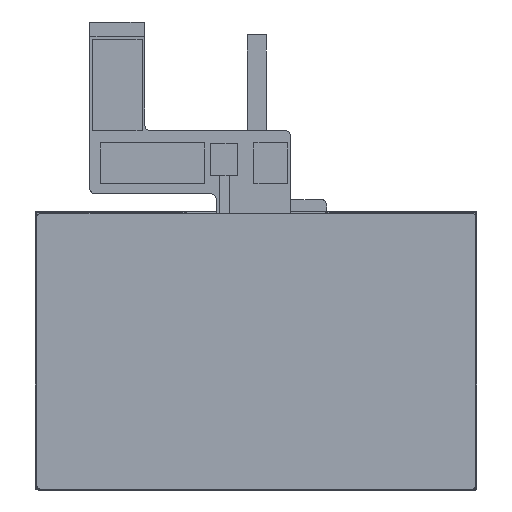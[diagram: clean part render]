
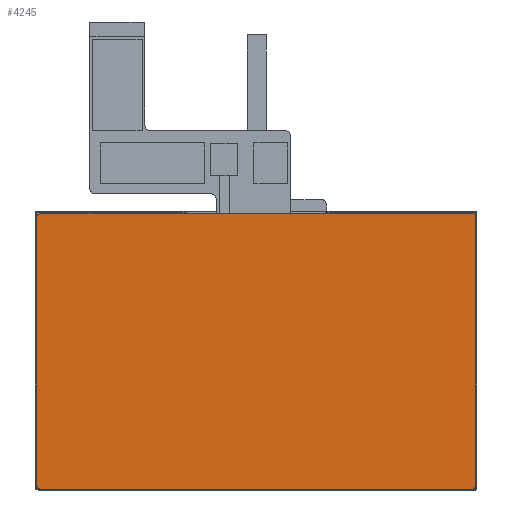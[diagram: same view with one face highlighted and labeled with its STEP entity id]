
A CAD part, front view. The second image highlights one B-rep face of the part: STEP entity #4245.
In plain terms, the highlighted planar face has unit normal (0, -1, 0).
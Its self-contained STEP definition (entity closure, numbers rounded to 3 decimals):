
#53 = DIRECTION ( 'NONE',  ( 0., 1., 0. ) ) ;
#87 = VERTEX_POINT ( 'NONE', #2944 ) ;
#133 = ORIENTED_EDGE ( 'NONE', *, *, #8414, .F. ) ;
#269 = CIRCLE ( 'NONE', #8442, 2. ) ;
#316 = EDGE_CURVE ( 'NONE', #9313, #1096, #8787, .T. ) ;
#914 = DIRECTION ( 'NONE',  ( 0., 1., 0. ) ) ;
#1096 = VERTEX_POINT ( 'NONE', #9269 ) ;
#1591 = CIRCLE ( 'NONE', #3984, 2. ) ;
#1613 = DIRECTION ( 'NONE',  ( 0., 1., 0. ) ) ;
#1659 = AXIS2_PLACEMENT_3D ( 'NONE', #4629, #3024, #5297 ) ;
#1681 = DIRECTION ( 'NONE',  ( 0., 1., 0. ) ) ;
#1828 = EDGE_CURVE ( 'NONE', #5724, #8497, #269, .T. ) ;
#2068 = FACE_OUTER_BOUND ( 'NONE', #2258, .T. ) ;
#2258 = EDGE_LOOP ( 'NONE', ( #133, #3443, #6563, #6623, #7317, #6609, #5462, #7167 ) ) ;
#2562 = CARTESIAN_POINT ( 'NONE',  ( -52.522, 100.186, 60.567 ) ) ;
#2720 = CARTESIAN_POINT ( 'NONE',  ( 111.778, 100.186, 121.367 ) ) ;
#2780 = CIRCLE ( 'NONE', #1659, 2. ) ;
#2944 = CARTESIAN_POINT ( 'NONE',  ( 109.778, 100.186, 58.567 ) ) ;
#3001 = AXIS2_PLACEMENT_3D ( 'NONE', #4674, #914, #7493 ) ;
#3022 = VECTOR ( 'NONE', #8131, 1000. ) ;
#3024 = DIRECTION ( 'NONE',  ( 0., 1., 0. ) ) ;
#3079 = CARTESIAN_POINT ( 'NONE',  ( -50.522, 100.186, 60.567 ) ) ;
#3110 = DIRECTION ( 'NONE',  ( 0., 0., 1. ) ) ;
#3443 = ORIENTED_EDGE ( 'NONE', *, *, #1828, .F. ) ;
#3479 = EDGE_CURVE ( 'NONE', #6558, #87, #2780, .T. ) ;
#3482 = CARTESIAN_POINT ( 'NONE',  ( -50.522, 100.186, 161.867 ) ) ;
#3727 = CARTESIAN_POINT ( 'NONE',  ( 29.628, 100.186, 58.567 ) ) ;
#3774 = EDGE_CURVE ( 'NONE', #87, #5724, #9692, .T. ) ;
#3984 = AXIS2_PLACEMENT_3D ( 'NONE', #4471, #53, #7626 ) ;
#4245 = ADVANCED_FACE ( 'NONE', ( #2068 ), #8527, .F. ) ;
#4278 = CIRCLE ( 'NONE', #3001, 2. ) ;
#4471 = CARTESIAN_POINT ( 'NONE',  ( -50.522, 100.186, 159.867 ) ) ;
#4629 = CARTESIAN_POINT ( 'NONE',  ( 109.778, 100.186, 60.567 ) ) ;
#4674 = CARTESIAN_POINT ( 'NONE',  ( 109.778, 100.186, 159.867 ) ) ;
#4866 = CARTESIAN_POINT ( 'NONE',  ( -52.522, 100.186, 121.367 ) ) ;
#5028 = VECTOR ( 'NONE', #8949, 1000. ) ;
#5086 = CARTESIAN_POINT ( 'NONE',  ( 29.628, 100.186, 161.867 ) ) ;
#5238 = VECTOR ( 'NONE', #7927, 1000. ) ;
#5297 = DIRECTION ( 'NONE',  ( 0., 0., 1. ) ) ;
#5445 = EDGE_CURVE ( 'NONE', #1096, #7754, #4278, .T. ) ;
#5462 = ORIENTED_EDGE ( 'NONE', *, *, #316, .F. ) ;
#5724 = VERTEX_POINT ( 'NONE', #9776 ) ;
#6466 = LINE ( 'NONE', #2720, #3022 ) ;
#6514 = DIRECTION ( 'NONE',  ( 0., 0., 1. ) ) ;
#6558 = VERTEX_POINT ( 'NONE', #8552 ) ;
#6563 = ORIENTED_EDGE ( 'NONE', *, *, #3774, .F. ) ;
#6605 = VERTEX_POINT ( 'NONE', #8089 ) ;
#6609 = ORIENTED_EDGE ( 'NONE', *, *, #5445, .F. ) ;
#6623 = ORIENTED_EDGE ( 'NONE', *, *, #3479, .F. ) ;
#7041 = EDGE_CURVE ( 'NONE', #7754, #6558, #6466, .T. ) ;
#7118 = LINE ( 'NONE', #4866, #7347 ) ;
#7145 = EDGE_CURVE ( 'NONE', #6605, #9313, #1591, .T. ) ;
#7167 = ORIENTED_EDGE ( 'NONE', *, *, #7145, .F. ) ;
#7264 = AXIS2_PLACEMENT_3D ( 'NONE', #8424, #1613, #3110 ) ;
#7317 = ORIENTED_EDGE ( 'NONE', *, *, #7041, .F. ) ;
#7347 = VECTOR ( 'NONE', #6514, 1000. ) ;
#7357 = CARTESIAN_POINT ( 'NONE',  ( 111.778, 100.186, 159.867 ) ) ;
#7493 = DIRECTION ( 'NONE',  ( 0., 0., 1. ) ) ;
#7626 = DIRECTION ( 'NONE',  ( 0., 0., 1. ) ) ;
#7754 = VERTEX_POINT ( 'NONE', #7357 ) ;
#7927 = DIRECTION ( 'NONE',  ( 1., 0., 0. ) ) ;
#8089 = CARTESIAN_POINT ( 'NONE',  ( -52.522, 100.186, 159.867 ) ) ;
#8131 = DIRECTION ( 'NONE',  ( 0., 0., -1. ) ) ;
#8414 = EDGE_CURVE ( 'NONE', #8497, #6605, #7118, .T. ) ;
#8424 = CARTESIAN_POINT ( 'NONE',  ( 29.628, 100.186, 121.367 ) ) ;
#8442 = AXIS2_PLACEMENT_3D ( 'NONE', #3079, #1681, #9192 ) ;
#8497 = VERTEX_POINT ( 'NONE', #2562 ) ;
#8527 = PLANE ( 'NONE',  #7264 ) ;
#8552 = CARTESIAN_POINT ( 'NONE',  ( 111.778, 100.186, 60.567 ) ) ;
#8787 = LINE ( 'NONE', #5086, #5238 ) ;
#8949 = DIRECTION ( 'NONE',  ( -1., 0., 0. ) ) ;
#9192 = DIRECTION ( 'NONE',  ( 0., 0., 1. ) ) ;
#9269 = CARTESIAN_POINT ( 'NONE',  ( 109.778, 100.186, 161.867 ) ) ;
#9313 = VERTEX_POINT ( 'NONE', #3482 ) ;
#9692 = LINE ( 'NONE', #3727, #5028 ) ;
#9776 = CARTESIAN_POINT ( 'NONE',  ( -50.522, 100.186, 58.567 ) ) ;
